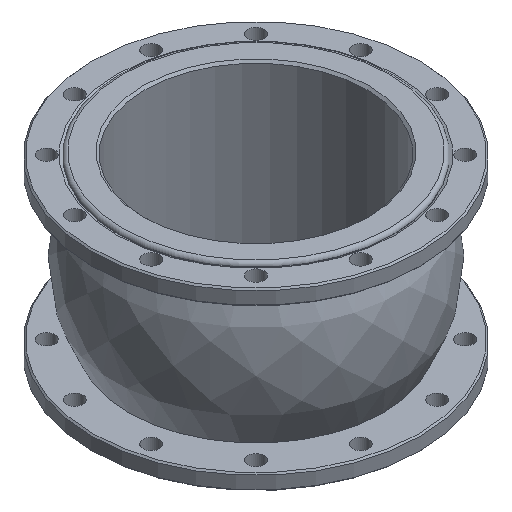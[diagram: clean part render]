
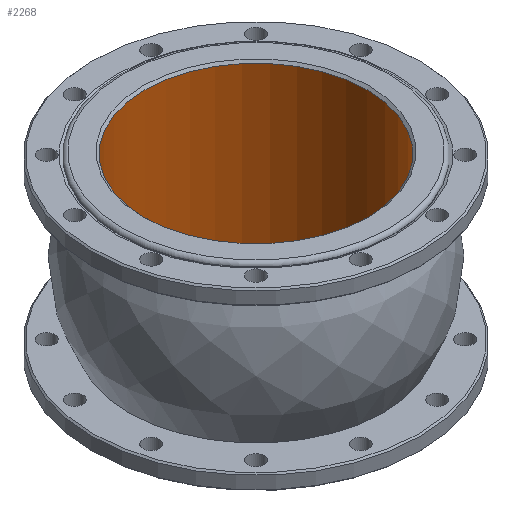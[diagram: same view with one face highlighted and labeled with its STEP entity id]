
A CAD part, isometric view. The second image highlights one B-rep face of the part: STEP entity #2268.
In plain terms, the highlighted cylindrical face has radius 150 mm (diameter 300 mm), a full revolution.
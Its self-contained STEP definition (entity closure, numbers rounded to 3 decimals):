
#250=CYLINDRICAL_SURFACE('',#2530,150.);
#362=FACE_OUTER_BOUND('',#534,.T.);
#534=EDGE_LOOP('',(#1972,#1973,#1974,#1975,#1976));
#632=LINE('',#4826,#728);
#728=VECTOR('',#3092,150.);
#895=CIRCLE('',#2510,150.);
#896=CIRCLE('',#2525,150.);
#898=CIRCLE('',#2527,150.);
#1102=VERTEX_POINT('',#4786);
#1103=VERTEX_POINT('',#4815);
#1104=VERTEX_POINT('',#4816);
#1384=EDGE_CURVE('',#1102,#1102,#895,.T.);
#1398=EDGE_CURVE('',#1103,#1104,#896,.T.);
#1401=EDGE_CURVE('',#1104,#1103,#898,.T.);
#1403=EDGE_CURVE('',#1103,#1102,#632,.T.);
#1972=ORIENTED_EDGE('',*,*,#1398,.F.);
#1973=ORIENTED_EDGE('',*,*,#1403,.T.);
#1974=ORIENTED_EDGE('',*,*,#1384,.T.);
#1975=ORIENTED_EDGE('',*,*,#1403,.F.);
#1976=ORIENTED_EDGE('',*,*,#1401,.F.);
#2268=ADVANCED_FACE('',(#362),#250,.F.);
#2510=AXIS2_PLACEMENT_3D('',#4787,#3036,#3037);
#2525=AXIS2_PLACEMENT_3D('',#4817,#3079,#3080);
#2527=AXIS2_PLACEMENT_3D('',#4821,#3084,#3085);
#2530=AXIS2_PLACEMENT_3D('',#4825,#3090,#3091);
#3036=DIRECTION('center_axis',(0.,0.,-1.));
#3037=DIRECTION('ref_axis',(1.,0.,0.));
#3079=DIRECTION('center_axis',(0.,0.,-1.));
#3080=DIRECTION('ref_axis',(0.,-1.,0.));
#3084=DIRECTION('center_axis',(0.,0.,-1.));
#3085=DIRECTION('ref_axis',(0.,-1.,0.));
#3090=DIRECTION('center_axis',(0.,0.,-1.));
#3091=DIRECTION('ref_axis',(0.,1.,0.));
#3092=DIRECTION('',(0.,0.,-1.));
#4786=CARTESIAN_POINT('',(0.,-150.,-122.5));
#4787=CARTESIAN_POINT('Origin',(0.,0.,-122.5));
#4815=CARTESIAN_POINT('',(0.,-150.,119.5));
#4816=CARTESIAN_POINT('',(0.,150.,119.5));
#4817=CARTESIAN_POINT('Origin',(0.,0.,119.5));
#4821=CARTESIAN_POINT('Origin',(0.,0.,119.5));
#4825=CARTESIAN_POINT('Origin',(0.,0.,0.));
#4826=CARTESIAN_POINT('',(0.,-150.,0.));
